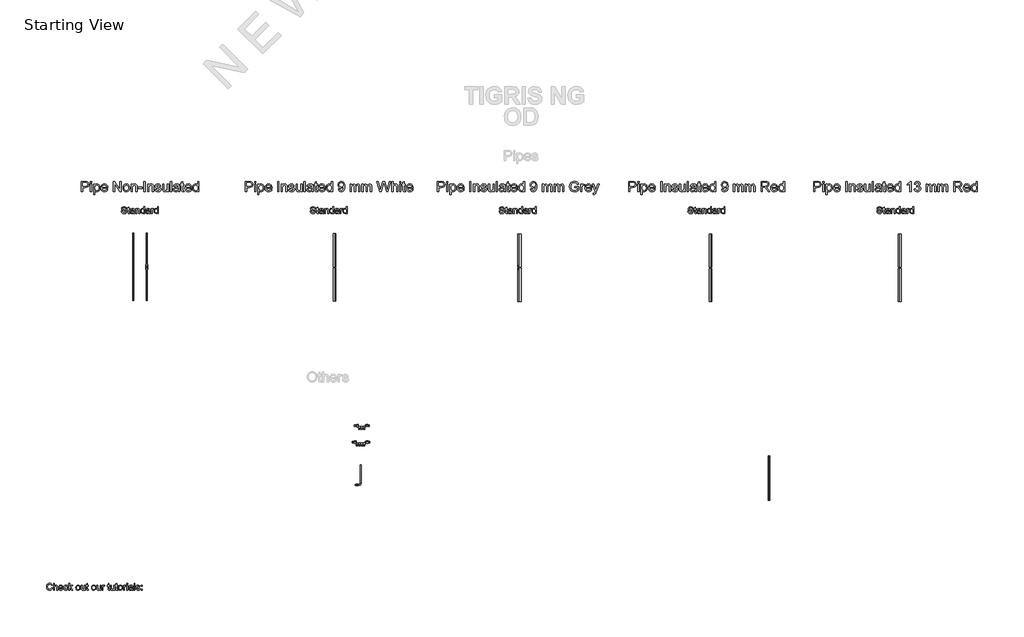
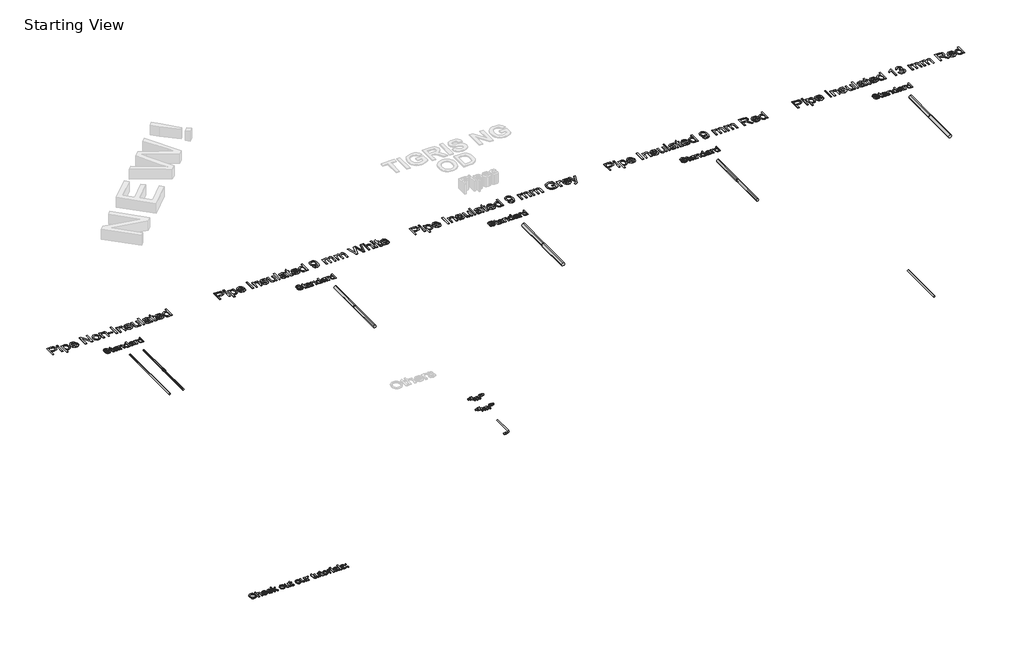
# One storey, part 1 of 2: 18 pipe fittings, 12 pipe segments, 1 proxy.
"""IFC4 building model written with IfcOpenShell, lengths in millimetres."""

from ifc_helpers import new_model, si_unit, point, frame, frame_2d, origin, origin_with_axes, place, context, project, spatial, polyline, circle_curve, trimmed, segment, composite_curve, outline, extrude, transform, mapped, element, save
from components import m5_standard_16_15_4857efd0, standard_570630be, standard_738390c8, standard_260b12c7, standard_a49c3ffd, standard_0df5a764, z_starting_view_new_start_4_b7e0aab5, z_starting_view_new_start_4_ba743cbc, z_starting_view_new_start_4_688b219d, z_starting_view_new_start_4_d8138100

model = new_model("IFC4")

# Units and contexts
model_context = context("Model", 3, world=origin())
ifc_project = project(units=[si_unit("LENGTHUNIT", "METRE", prefix="MILLI")], contexts=[model_context])

# Site, building, storey
site = spatial("IfcSite", under=ifc_project)
building = spatial("IfcBuilding", under=site)
storey = spatial("IfcBuildingStorey", under=building, Name="Starting View", Elevation=0.0)

# Proxy
placement = place(None, origin())
element("IfcBuildingElementProxy", 1, Name="Arial 100", ObjectType="Arial 100", at=placement, inside=storey, context=model_context, shape_type="SweptSolid", body=[
    extrude(outline(polyline([(8037.5758646, 8708.9998472), (8050.1329034, 8705.7624857), (8044.3387619, 8691.1299793), (8035.2459453, 8680.4399417), (8023.3020432, 8673.9008392), (8008.9546454, 8671.7211384), (7994.389584, 8673.370476), (7982.822761, 8678.3184888), (7973.9568049, 8686.3934986), (7967.4943445, 8697.4238271), (7962.233632, 8724.2792128), (7963.7204884, 8738.9270475), (7968.1810576, 8751.5760568), (7975.3823476, 8761.8246361), (7985.0913666, 8769.2711808), (7996.6060731, 8773.8053264), (8009.2244255, 8775.3167082), (8022.9924092, 8773.3608023), (8034.3752912, 8767.4930845), (8043.0174524, 8758.0753054), (8048.5632735, 8745.4692157), (8036.0062348, 8742.4771088), (8025.7055389, 8757.9158899), (8008.7339162, 8762.7596695), (7989.0890176, 8757.3885923), (7977.9912441, 8742.9676181), (7974.7906708, 8724.3037382), (7978.5798553, 8702.6722769), (7990.3766046, 8688.8521766), (8007.7038466, 8684.2781772), (8018.1854178, 8685.8355443), (8026.9195495, 8690.5076456), (8033.5138342, 8698.2454302), (8037.5758646, 8708.9998472)])), origin_with_axes(), (0.0, 0.0, 1.0), 10.0),
    extrude(outline(polyline([(8065.8292018, 8673.2907682), (8065.8292018, 8773.7470784), (8078.3862406, 8773.7470784), (8078.3862406, 8736.8117261), (8088.178033, 8745.6776822), (8100.2384311, 8748.6330009), (8114.3405743, 8745.407902), (8122.899962, 8736.492895), (8125.475136, 8719.9872562), (8125.475136, 8673.2907682), (8112.9180972, 8673.2907682), (8112.9180972, 8718.6874064), (8108.9204462, 8731.9311583), (8097.5896807, 8736.0759621), (8087.3012476, 8733.2800589), (8080.434117, 8725.7016898), (8078.3862406, 8712.4824635), (8078.3862406, 8673.2907682), (8065.8292018, 8673.2907682)])), origin_with_axes(), (0.0, 0.0, 1.0), 10.0),
    extrude(outline(polyline([(8194.3916964, 8695.2655861), (8206.7034805, 8693.6959562), (8202.2674368, 8684.4191986), (8195.1887741, 8677.484623), (8185.6269079, 8673.1620095), (8173.7412537, 8671.7211384), (8159.0075798, 8674.2074075), (8147.670683, 8681.666215), (8140.4418018, 8693.6131828), (8138.0321747, 8709.563933), (8140.4663273, 8726.0511777), (8147.7687849, 8738.3813559), (8158.9523975, 8746.0700896), (8173.0300152, 8748.6330009), (8186.6692402, 8746.076221), (8197.5677443, 8738.4058814), (8204.7138521, 8726.1002287), (8207.095888, 8709.6375094), (8207.0223116, 8706.252995), (8150.5892135, 8706.252995), (8152.762783, 8696.85361), (8157.8119634, 8689.9435599), (8165.0990925, 8685.6945228), (8173.9865084, 8684.2781772), (8186.2982925, 8686.9024021), (8194.3916964, 8695.2655861)]), holes=[polyline([(8150.5892135, 8718.8100338), (8194.5388492, 8718.8100338), (8189.5111286, 8730.1898502), (8182.1902769, 8734.6044341), (8172.9809643, 8736.0759621), (8157.5176578, 8731.3793353), (8152.6524184, 8725.8886965), (8150.5892135, 8718.8100338)])]), origin_with_axes(), (0.0, 0.0, 1.0), 10.0),
    extrude(outline(polyline([(8266.7418221, 8699.9744756), (8279.2988609, 8698.4048458), (8275.7978506, 8687.2365615), (8269.2188942, 8678.7967354), (8260.1812599, 8673.4900377), (8249.3042156, 8671.7211384), (8235.9470334, 8674.1890134), (8225.5022505, 8681.5926386), (8218.7608129, 8693.6070514), (8216.5136671, 8709.9072895), (8220.3519025, 8730.7661986), (8232.05055, 8744.169366), (8249.1325373, 8748.6330009), (8259.7428672, 8747.1001592), (8268.2256128, 8742.5016343), (8274.3109942, 8735.0826807), (8277.729231, 8725.0885532), (8265.1721923, 8723.5189233), (8259.347394, 8732.9244397), (8249.2306392, 8736.0759621), (8241.1157755, 8734.5247263), (8234.6747749, 8729.8710191), (8230.4717231, 8721.8634543), (8229.0707058, 8710.250646), (8230.4410663, 8698.4814879), (8234.5521475, 8690.446332), (8240.8766522, 8685.8202159), (8248.8872826, 8684.2781772), (8260.7208201, 8688.1286754), (8266.7418221, 8699.9744756)])), origin_with_axes(), (0.0, 0.0, 1.0), 10.0),
    extrude(outline(polyline([(8290.2862698, 8673.2907682), (8290.2862698, 8773.7470784), (8302.8433086, 8773.7470784), (8302.8433086, 8719.766527), (8330.998544, 8747.063371), (8348.3625741, 8747.063371), (8319.8639822, 8719.4231704), (8349.932204, 8673.2907682), (8335.2659751, 8673.2907682), (8310.8631361, 8710.6921044), (8302.8433086, 8702.9175316), (8302.8433086, 8673.2907682), (8290.2862698, 8673.2907682)])), origin_with_axes(), (0.0, 0.0, 1.0), 10.0),
    extrude(outline(polyline([(8397.0210994, 8710.1770696), (8399.7372948, 8727.9641641), (8407.8858809, 8740.4660206), (8417.9535849, 8746.5912558), (8430.0078516, 8748.6330009), (8443.1994868, 8746.1467317), (8453.7362403, 8738.6879243), (8460.6432247, 8726.8451897), (8462.9455529, 8711.2071392), (8458.8743255, 8688.8644394), (8447.0162625, 8676.2215615), (8430.0078516, 8671.7211384), (8416.6568008, 8674.1982105), (8406.1323101, 8681.6294268), (8399.298902, 8693.7204817), (8397.0210994, 8710.1770696)]), holes=[polyline([(8409.5781381, 8710.2015951), (8411.031272, 8698.8371071), (8415.3906736, 8690.7406375), (8421.9512359, 8685.8937923), (8430.0078516, 8684.2781772), (8438.0276791, 8685.9029893), (8444.5759786, 8690.7774257), (8448.9353802, 8698.9811942), (8450.3885141, 8710.5940026), (8448.9261832, 8721.6273967), (8444.5391904, 8729.6135017), (8437.9816938, 8734.460347), (8430.0078516, 8736.0759621), (8421.9512359, 8734.4664784), (8415.3906736, 8729.6380272), (8411.031272, 8721.5599517), (8409.5781381, 8710.2015951)])]), origin_with_axes(), (0.0, 0.0, 1.0), 10.0),
    extrude(outline(polyline([(8524.1611169, 8673.2907682), (8524.1611169, 8685.9704343), (8514.3264049, 8675.2834624), (8501.499586, 8671.7211384), (8489.6905739, 8674.222736), (8481.5481191, 8680.5012553), (8477.8079855, 8689.7473562), (8477.0722215, 8701.4214781), (8477.0722215, 8747.063371), (8489.6292603, 8747.063371), (8489.6292603, 8707.3321155), (8490.3895497, 8694.5298221), (8495.3559567, 8687.0127667), (8504.7124221, 8684.2781772), (8515.1970589, 8687.0740803), (8522.1255032, 8694.6892376), (8524.1611169, 8708.6810162), (8524.1611169, 8747.063371), (8536.7181557, 8747.063371), (8536.7181557, 8673.2907682), (8524.1611169, 8673.2907682)])), origin_with_axes(), (0.0, 0.0, 1.0), 10.0),
    extrude(outline(polyline([(8580.6677913, 8683.7631424), (8582.2374212, 8672.9228862), (8572.8441676, 8671.7211384), (8562.3227425, 8673.805803), (8557.0742927, 8679.274982), (8555.5537138, 8693.524278), (8555.5537138, 8734.5063322), (8546.1359347, 8734.5063322), (8546.1359347, 8747.063371), (8555.5537138, 8747.063371), (8555.5537138, 8764.9914869), (8568.1107526, 8772.3736523), (8568.1107526, 8747.063371), (8580.6677913, 8747.063371), (8580.6677913, 8734.5063322), (8568.1107526, 8734.5063322), (8568.1107526, 8693.89216), (8568.7729402, 8687.4174369), (8570.9189185, 8685.1243058), (8575.1986123, 8684.2781772), (8580.6677913, 8683.7631424)])), origin_with_axes(), (0.0, 0.0, 1.0), 10.0),
    extrude(outline(polyline([(8629.3263166, 8710.1770696), (8632.042512, 8727.9641641), (8640.1910982, 8740.4660206), (8650.2588021, 8746.5912558), (8662.3130688, 8748.6330009), (8675.504704, 8746.1467317), (8686.0414575, 8738.6879243), (8692.948442, 8726.8451897), (8695.2507701, 8711.2071392), (8691.1795427, 8688.8644394), (8679.3214797, 8676.2215615), (8662.3130688, 8671.7211384), (8648.9620181, 8674.1982105), (8638.4375273, 8681.6294268), (8631.6041193, 8693.7204817), (8629.3263166, 8710.1770696)]), holes=[polyline([(8641.8833553, 8710.2015951), (8643.3364892, 8698.8371071), (8647.6958909, 8690.7406375), (8654.2564531, 8685.8937923), (8662.3130688, 8684.2781772), (8670.3328963, 8685.9029893), (8676.8811958, 8690.7774257), (8681.2405975, 8698.9811942), (8682.6937313, 8710.5940026), (8681.2314004, 8721.6273967), (8676.8444076, 8729.6135017), (8670.2869111, 8734.460347), (8662.3130688, 8736.0759621), (8654.2564531, 8734.4664784), (8647.6958909, 8729.6380272), (8643.3364892, 8721.5599517), (8641.8833553, 8710.2015951)])]), origin_with_axes(), (0.0, 0.0, 1.0), 10.0),
    extrude(outline(polyline([(8756.4663341, 8673.2907682), (8756.4663341, 8685.9704343), (8746.6316221, 8675.2834624), (8733.8048032, 8671.7211384), (8721.9957912, 8674.222736), (8713.8533363, 8680.5012553), (8710.1132027, 8689.7473562), (8709.3774387, 8701.4214781), (8709.3774387, 8747.063371), (8721.9344775, 8747.063371), (8721.9344775, 8707.3321155), (8722.6947669, 8694.5298221), (8727.6611739, 8687.0127667), (8737.0176393, 8684.2781772), (8747.5022762, 8687.0740803), (8754.4307204, 8694.6892376), (8756.4663341, 8708.6810162), (8756.4663341, 8747.063371), (8769.0233729, 8747.063371), (8769.0233729, 8673.2907682), (8756.4663341, 8673.2907682)])), origin_with_axes(), (0.0, 0.0, 1.0), 10.0),
    extrude(outline(polyline([(8786.2893012, 8673.2907682), (8786.2893012, 8747.063371), (8797.2767101, 8747.063371), (8797.2767101, 8736.1495385), (8805.0758084, 8746.2049797), (8812.9239576, 8748.6330009), (8825.5300473, 8744.7579772), (8821.3361926, 8733.5007881), (8812.5070247, 8736.0759621), (8805.4069022, 8733.59889), (8800.8819537, 8726.7317594), (8798.84634, 8712.0655305), (8798.84634, 8673.2907682), (8786.2893012, 8673.2907682)])), origin_with_axes(), (0.0, 0.0, 1.0), 10.0),
    extrude(outline(polyline([(8899.3026501, 8683.7631424), (8900.8722799, 8672.9228862), (8891.4790263, 8671.7211384), (8880.9576013, 8673.805803), (8875.7091515, 8679.274982), (8874.1885726, 8693.524278), (8874.1885726, 8734.5063322), (8864.7707935, 8734.5063322), (8864.7707935, 8747.063371), (8874.1885726, 8747.063371), (8874.1885726, 8764.9914869), (8886.7456113, 8772.3736523), (8886.7456113, 8747.063371), (8899.3026501, 8747.063371), (8899.3026501, 8734.5063322), (8886.7456113, 8734.5063322), (8886.7456113, 8693.89216), (8887.4077989, 8687.4174369), (8889.5537772, 8685.1243058), (8893.8334711, 8684.2781772), (8899.3026501, 8683.7631424)])), origin_with_axes(), (0.0, 0.0, 1.0), 10.0),
    extrude(outline(polyline([(8958.9485843, 8673.2907682), (8958.9485843, 8685.9704343), (8949.1138722, 8675.2834624), (8936.2870533, 8671.7211384), (8924.4780413, 8674.222736), (8916.3355865, 8680.5012553), (8912.5954529, 8689.7473562), (8911.8596889, 8701.4214781), (8911.8596889, 8747.063371), (8924.4167276, 8747.063371), (8924.4167276, 8707.3321155), (8925.1770171, 8694.5298221), (8930.143424, 8687.0127667), (8939.4998894, 8684.2781772), (8949.9845263, 8687.0740803), (8956.9129705, 8694.6892376), (8958.9485843, 8708.6810162), (8958.9485843, 8747.063371), (8971.505623, 8747.063371), (8971.505623, 8673.2907682), (8958.9485843, 8673.2907682)])), origin_with_axes(), (0.0, 0.0, 1.0), 10.0),
    extrude(outline(polyline([(9015.4552587, 8683.7631424), (9017.0248886, 8672.9228862), (9007.6316349, 8671.7211384), (8997.1102099, 8673.805803), (8991.8617601, 8679.274982), (8990.3411812, 8693.524278), (8990.3411812, 8734.5063322), (8980.9234021, 8734.5063322), (8980.9234021, 8747.063371), (8990.3411812, 8747.063371), (8990.3411812, 8764.9914869), (9002.8982199, 8772.3736523), (9002.8982199, 8747.063371), (9015.4552587, 8747.063371), (9015.4552587, 8734.5063322), (9002.8982199, 8734.5063322), (9002.8982199, 8693.89216), (9003.5604075, 8687.4174369), (9005.7063858, 8685.1243058), (9009.9860797, 8684.2781772), (9015.4552587, 8683.7631424)])), origin_with_axes(), (0.0, 0.0, 1.0), 10.0),
    extrude(outline(polyline([(9024.8730378, 8710.1770696), (9027.5892332, 8727.9641641), (9035.7378194, 8740.4660206), (9045.8055233, 8746.5912558), (9057.85979, 8748.6330009), (9071.0514252, 8746.1467317), (9081.5881787, 8738.6879243), (9088.4951632, 8726.8451897), (9090.7974913, 8711.2071392), (9086.7262639, 8688.8644394), (9074.8682009, 8676.2215615), (9057.85979, 8671.7211384), (9044.5087393, 8674.1982105), (9033.9842485, 8681.6294268), (9027.1508405, 8693.7204817), (9024.8730378, 8710.1770696)]), holes=[polyline([(9037.4300766, 8710.2015951), (9038.8832104, 8698.8371071), (9043.2426121, 8690.7406375), (9049.8031743, 8685.8937923), (9057.85979, 8684.2781772), (9065.8796175, 8685.9029893), (9072.427917, 8690.7774257), (9076.7873187, 8698.9811942), (9078.2404526, 8710.5940026), (9076.7781216, 8721.6273967), (9072.3911288, 8729.6135017), (9065.8336323, 8734.460347), (9057.85979, 8736.0759621), (9049.8031743, 8734.4664784), (9043.2426121, 8729.6380272), (9038.8832104, 8721.5599517), (9037.4300766, 8710.2015951)])]), origin_with_axes(), (0.0, 0.0, 1.0), 10.0),
    extrude(outline(polyline([(9104.9241599, 8673.2907682), (9104.9241599, 8747.063371), (9115.9115689, 8747.063371), (9115.9115689, 8736.1495385), (9123.7106672, 8746.2049797), (9131.5588164, 8748.6330009), (9144.1649061, 8744.7579772), (9139.9710513, 8733.5007881), (9131.1418835, 8736.0759621), (9124.041761, 8733.59889), (9119.5168124, 8726.7317594), (9117.4811987, 8712.0655305), (9117.4811987, 8673.2907682), (9104.9241599, 8673.2907682)])), origin_with_axes(), (0.0, 0.0, 1.0), 10.0),
    extrude(outline(polyline([(9152.0130553, 8761.1900396), (9152.0130553, 8773.7470784), (9164.5700941, 8773.7470784), (9164.5700941, 8761.1900396), (9152.0130553, 8761.1900396)])), origin_with_axes(), (0.0, 0.0, 1.0), 10.0),
    extrude(outline(polyline([(9152.0130553, 8673.2907682), (9152.0130553, 8747.063371), (9164.5700941, 8747.063371), (9164.5700941, 8673.2907682), (9152.0130553, 8673.2907682)])), origin_with_axes(), (0.0, 0.0, 1.0), 10.0),
    extrude(outline(polyline([(9230.4945476, 8682.7085473), (9218.3176536, 8674.1982105), (9204.8654353, 8671.7211384), (9194.3716014, 8673.2110605), (9186.6307511, 8677.6808267), (9181.8574822, 8684.4682495), (9180.2663926, 8692.9111413), (9182.6698883, 8702.8439552), (9188.9851958, 8710.0544423), (9197.7775755, 8714.1747206), (9208.6423571, 8716.0631815), (9230.4209712, 8720.3796636), (9230.4945476, 8723.1755668), (9227.0364569, 8732.4461931), (9213.1550429, 8736.0759621), (9200.4508514, 8733.6602037), (9194.3930612, 8725.0885532), (9181.8360224, 8726.658183), (9187.2684132, 8738.9209162), (9198.2067712, 8746.1068778), (9214.7737237, 8748.6330009), (9229.9917756, 8746.4011834), (9238.5879515, 8740.7971144), (9242.4384497, 8732.2745148), (9243.0515864, 8721.2871059), (9243.0515864, 8705.6643838), (9243.6892485, 8683.8489815), (9246.1908461, 8673.2907682), (9233.6338073, 8673.2907682), (9230.4945476, 8682.7085473)]), holes=[polyline([(9230.4945476, 8707.8226249), (9210.2365124, 8703.9721266), (9199.4330445, 8701.9365129), (9194.540214, 8698.625575), (9192.8234313, 8693.7940581), (9196.5635649, 8687.0005039), (9207.5387111, 8684.2781772), (9220.2429027, 8687.2825468), (9228.4344085, 8694.5543476), (9230.4209712, 8704.2664322), (9230.4945476, 8707.8226249)])]), origin_with_axes(), (0.0, 0.0, 1.0), 10.0),
    extrude(outline(polyline([(9260.3175147, 8673.2907682), (9260.3175147, 8773.7470784), (9272.8745535, 8773.7470784), (9272.8745535, 8673.2907682), (9260.3175147, 8673.2907682)])), origin_with_axes(), (0.0, 0.0, 1.0), 10.0),
    extrude(outline(polyline([(9287.0012221, 8695.2655861), (9299.5582609, 8696.8352159), (9305.3707964, 8687.5155387), (9318.6881246, 8684.2781772), (9331.490418, 8687.2457586), (9335.6597473, 8694.210991), (9331.4658926, 8699.8518483), (9318.5409718, 8703.4325664), (9299.6318373, 8709.5761957), (9291.3790178, 8716.7498946), (9288.5708519, 8726.8789122), (9290.8271948, 8736.2353776), (9296.9830869, 8743.3845511), (9304.9661262, 8747.1001592), (9315.7695941, 8748.6330009), (9331.0489596, 8746.1681915), (9340.7610443, 8739.4972646), (9345.0775264, 8728.2278129), (9332.5204876, 8726.658183), (9327.7993353, 8733.5866273), (9316.7506128, 8736.0759621), (9304.7331343, 8733.6969919), (9301.1278907, 8728.1542365), (9302.6239441, 8724.499942), (9307.3083082, 8721.7285643), (9318.1240389, 8719.0552884), (9336.5549268, 8713.1446511), (9345.1143146, 8706.4491987), (9348.2167861, 8695.5353662), (9344.5747543, 8683.5178877), (9334.065592, 8674.7990844), (9318.5164463, 8671.7211384), (9305.8551743, 8673.2049291), (9296.6152049, 8677.6563013), (9290.4470501, 8685.0262039), (9287.0012221, 8695.2655861)])), origin_with_axes(), (0.0, 0.0, 1.0), 10.0),
    extrude(outline(polyline([(9365.4827144, 8673.2907682), (9365.4827144, 8685.847807), (9378.0397532, 8685.847807), (9378.0397532, 8673.2907682), (9365.4827144, 8673.2907682)])), origin_with_axes(), (0.0, 0.0, 1.0), 10.0),
    extrude(outline(polyline([(9365.4827144, 8734.5063322), (9365.4827144, 8747.063371), (9378.0397532, 8747.063371), (9378.0397532, 8734.5063322), (9365.4827144, 8734.5063322)])), origin_with_axes(), (0.0, 0.0, 1.0), 10.0),
])

# Pipe fittings
m5_standard_16_15_shape = m5_standard_16_15_4857efd0(model_context)
element("IfcPipeFitting", 2, ObjectType="PIF_Tigris_Elbow_Cu_30cm_M5_Wavin : M5 Standard 16-15", at=placement, inside=storey, context=model_context, shape_type="MappedRepresentation", body=[
    mapped(m5_standard_16_15_shape, transform((12620.0361956, 10235.6662995, 0.0), x_axis=(1.0, 0.0, 0.0), y_axis=(0.0, 1.0, 0.0), z_axis=(0.0, 0.0, 1.0))),
])
standard_shape = standard_570630be(model_context)
element("IfcPipeFitting", 3, ObjectType="PIF_Tigris_Coupler_M-K_Wavin : Standard", at=placement, inside=storey, context=model_context, shape_type="MappedRepresentation", body=[
    mapped(standard_shape, transform((9448.1416532, 13468.5811003, 107.5), x_axis=(0.0, 1.0, 0.0), y_axis=(-1.0, 0.0, 0.0), z_axis=(0.0, 0.0, 1.0))),
])
element("IfcPipeFitting", 4, ObjectType="PIF_Tigris_Coupler_M-K_Wavin : Standard", at=placement, inside=storey, context=model_context, shape_type="MappedRepresentation", body=[
    mapped(standard_shape, transform((12234.2366152, 13461.621921, 107.5), x_axis=(0.0, 1.0, 0.0), y_axis=(-1.0, 0.0, 0.0), z_axis=(0.0, 0.0, 1.0))),
])
element("IfcPipeFitting", 5, ObjectType="PIF_Tigris_Coupler_M-K_Wavin : Standard", at=placement, inside=storey, context=model_context, shape_type="MappedRepresentation", body=[
    mapped(standard_shape, transform((17806.796183, 13457.716339, 107.5), x_axis=(0.0, -1.0, 0.0), y_axis=(1.0, 0.0, 0.0), z_axis=(0.0, 0.0, 1.0))),
])
element("IfcPipeFitting", 6, ObjectType="PIF_Tigris_Coupler_M-K_Wavin : Standard", at=placement, inside=storey, context=model_context, shape_type="MappedRepresentation", body=[
    mapped(standard_shape, transform((20611.8713286, 13457.223444, 107.5), x_axis=(0.0, 1.0, 0.0), y_axis=(-1.0, 0.0, 0.0), z_axis=(0.0, 0.0, 1.0))),
])
standard_2_shape = standard_738390c8(model_context)
element("IfcPipeFitting", 7, ObjectType="Z_PIF_Tigris_M1_Manifold_Adaptor_Wavin_(nested) : Standard", at=placement, inside=storey, context=model_context, shape_type="MappedRepresentation", body=[
    mapped(standard_2_shape, transform((12633.1516316, 11081.6671273, 0.0), x_axis=(0.0, -1.0, 0.0), y_axis=(1.0, 0.0, 0.0), z_axis=(0.0, 0.0, 1.0))),
])
element("IfcPipeFitting", 8, ObjectType="Z_PIF_Tigris_M1_Manifold_Adaptor_Wavin_(nested) : Standard", at=placement, inside=storey, context=model_context, shape_type="MappedRepresentation", body=[
    mapped(standard_2_shape, transform((12668.1516316, 11081.6671273, 0.0), x_axis=(0.0, -1.0, 0.0), y_axis=(1.0, 0.0, 0.0), z_axis=(0.0, 0.0, 1.0))),
])
element("IfcPipeFitting", 9, ObjectType="Z_PIF_Tigris_M1_Manifold_Adaptor_Wavin_(nested) : Standard", at=placement, inside=storey, context=model_context, shape_type="MappedRepresentation", body=[
    mapped(standard_2_shape, transform((12566.1516316, 10835.8389547, 0.0), x_axis=(0.0, -1.0, 0.0), y_axis=(1.0, 0.0, 0.0), z_axis=(0.0, 0.0, 1.0))),
])
element("IfcPipeFitting", 10, ObjectType="Z_PIF_Tigris_M1_Manifold_Adaptor_Wavin_(nested) : Standard", at=placement, inside=storey, context=model_context, shape_type="MappedRepresentation", body=[
    mapped(standard_2_shape, transform((12671.1516316, 10835.8389547, 0.0), x_axis=(0.0, -1.0, 0.0), y_axis=(1.0, 0.0, 0.0), z_axis=(0.0, 0.0, 1.0))),
])
element("IfcPipeFitting", 11, ObjectType="Z_PIF_Tigris_M1_Manifold_Adaptor_Wavin_(nested) : Standard", at=placement, inside=storey, context=model_context, shape_type="MappedRepresentation", body=[
    mapped(standard_2_shape, transform((12636.1516316, 10835.8389547, 0.0), x_axis=(0.0, -1.0, 0.0), y_axis=(1.0, 0.0, 0.0), z_axis=(0.0, 0.0, 1.0))),
])
element("IfcPipeFitting", 12, ObjectType="Z_PIF_Tigris_M1_Manifold_Adaptor_Wavin_(nested) : Standard", at=placement, inside=storey, context=model_context, shape_type="MappedRepresentation", body=[
    mapped(standard_2_shape, transform((12598.1516316, 11081.6671273, 0.0), x_axis=(0.0, -1.0, 0.0), y_axis=(1.0, 0.0, 0.0), z_axis=(0.0, 0.0, 1.0))),
])
element("IfcPipeFitting", 13, ObjectType="Z_PIF_Tigris_M1_Manifold_Adaptor_Wavin_(nested) : Standard", at=placement, inside=storey, context=model_context, shape_type="MappedRepresentation", body=[
    mapped(standard_2_shape, transform((12601.1516316, 10835.8389547, 0.0), x_axis=(0.0, -1.0, 0.0), y_axis=(1.0, 0.0, 0.0), z_axis=(0.0, 0.0, 1.0))),
])
standard_3_shape = standard_260b12c7(model_context)
element("IfcPipeFitting", 14, ObjectType="Z_PIF_Tigris_Transition_M-K_FMT_Wavin_(nested) : Standard", at=placement, inside=storey, context=model_context, shape_type="MappedRepresentation", body=[
    mapped(standard_3_shape, transform((12557.6516316, 11115.6671273, 0.0), x_axis=(1.0, 0.0, 0.0), y_axis=(0.0, 1.0, 0.0), z_axis=(0.0, 0.0, 1.0))),
])
element("IfcPipeFitting", 15, ObjectType="Z_PIF_Tigris_Transition_M-K_FMT_Wavin_(nested) : Standard", at=placement, inside=storey, context=model_context, shape_type="MappedRepresentation", body=[
    mapped(standard_3_shape, transform((12525.6516316, 10869.8389547, 0.0), x_axis=(1.0, 0.0, 0.0), y_axis=(0.0, 1.0, 0.0), z_axis=(0.0, 0.0, 1.0))),
])
standard_4_shape = standard_a49c3ffd(model_context)
element("IfcPipeFitting", 16, ObjectType="Z_PIF_Tigris_Transition_M-K_MMT_Wavin_(nested) : Standard", at=placement, inside=storey, context=model_context, shape_type="MappedRepresentation", body=[
    mapped(standard_4_shape, transform((12706.1516316, 11115.6671273, 0.0), x_axis=(1.0, 0.0, 0.0), y_axis=(0.0, 1.0, 0.0), z_axis=(0.0, 0.0, 1.0))),
])
element("IfcPipeFitting", 17, ObjectType="Z_PIF_Tigris_Transition_M-K_MMT_Wavin_(nested) : Standard", at=placement, inside=storey, context=model_context, shape_type="MappedRepresentation", body=[
    mapped(standard_4_shape, transform((12709.1516316, 10869.8389547, 0.0), x_axis=(1.0, 0.0, 0.0), y_axis=(0.0, 1.0, 0.0), z_axis=(0.0, 0.0, 1.0))),
])
standard_5_shape = standard_0df5a764(model_context)
element("IfcPipeFitting", 18, ObjectType="PIF_Tigris_Coupler_M-K_Wavin : Standard", at=placement, inside=storey, context=model_context, shape_type="MappedRepresentation", body=[
    mapped(standard_5_shape, transform((14972.8480375, 13459.2850164, 107.5), x_axis=(0.0, 1.0, 0.0), y_axis=(-1.0, 0.0, 0.0), z_axis=(0.0, 0.0, 1.0))),
])
z_starting_view_new_start_4_shape = z_starting_view_new_start_4_b7e0aab5(model_context)
z_starting_view_new_start_4_2_shape = z_starting_view_new_start_4_ba743cbc(model_context)
z_starting_view_new_start_4_3_shape = z_starting_view_new_start_4_688b219d(model_context)
z_starting_view_new_start_4_4_shape = z_starting_view_new_start_4_d8138100(model_context)
element("IfcPipeFitting", 19, ObjectType="Z_Starting_View_New : Start_4", at=placement, inside=storey, context=model_context, shape_type="MappedRepresentation", body=[
    mapped(z_starting_view_new_start_4_shape, transform((-13286.2839596, 7141.2448294, 0.0), x_axis=(1.0, 0.0, 0.0), y_axis=(0.0, 1.0, 0.0), z_axis=(0.0, 0.0, 1.0))),
    mapped(z_starting_view_new_start_4_2_shape, transform((-13286.2839596, 7141.2448294, 0.0), x_axis=(1.0, 0.0, 0.0), y_axis=(0.0, 1.0, 0.0), z_axis=(0.0, 0.0, 1.0))),
    mapped(z_starting_view_new_start_4_3_shape, transform((-13286.2839596, 7141.2448294, 0.0), x_axis=(1.0, 0.0, 0.0), y_axis=(0.0, 1.0, 0.0), z_axis=(0.0, 0.0, 1.0))),
    mapped(z_starting_view_new_start_4_4_shape, transform((-13286.2839596, 7141.2448294, 0.0), x_axis=(1.0, 0.0, 0.0), y_axis=(0.0, 1.0, 0.0), z_axis=(0.0, 0.0, 1.0))),
])

# Pipe segments
element("IfcPipeSegment", 20, ObjectType="Wavin Tigris Single Pipe (OD) - Standard", at=placement, inside=storey, context=model_context, shape_type="SweptSolid", body=[
    extrude(outline(composite_curve([segment(trimmed(circle_curve(frame_2d((107.5, 9248.1416532)), 10.0), [point((107.5, 9258.1416532))], [point((117.5, 9248.1416532))], False, "CARTESIAN"), True, "CONTINUOUS"), segment(trimmed(circle_curve(frame_2d((107.5, 9248.1416532)), 10.0), [point((117.5, 9248.1416532))], [point((107.5, 9238.1416532))], False, "CARTESIAN"), True, "CONTINUOUS"), segment(trimmed(circle_curve(frame_2d((107.5, 9248.1416532)), 10.0), [point((107.5, 9238.1416532))], [point((97.5, 9248.1416532))], False, "CARTESIAN"), True, "CONTINUOUS"), segment(trimmed(circle_curve(frame_2d((107.5, 9248.1416532)), 10.0), [point((97.5, 9248.1416532))], [point((107.5, 9258.1416532))], False, "CARTESIAN"), True, "CONTINUOUS")], self_intersect=False)), frame((0.0, 12968.5811003, 0.0), z_axis=(0.0, 1.0, 0.0), x_axis=(0.0, 0.0, 1.0)), (0.0, 0.0, 1.0), 1000.0),
])
element("IfcPipeSegment", 21, ObjectType="Wavin Tigris Pipe Insulated 9mm White (OD) - Standard", at=placement, inside=storey, context=model_context, shape_type="SweptSolid", body=[
    extrude(outline(composite_curve([segment(trimmed(circle_curve(frame_2d((107.5, 12234.2366152)), 19.0), [point((107.5, 12253.2366152))], [point((126.5, 12234.2366152))], False, "CARTESIAN"), True, "CONTINUOUS"), segment(trimmed(circle_curve(frame_2d((107.5, 12234.2366152)), 19.0), [point((126.5, 12234.2366152))], [point((107.5, 12215.2366152))], False, "CARTESIAN"), True, "CONTINUOUS"), segment(trimmed(circle_curve(frame_2d((107.5, 12234.2366152)), 19.0), [point((107.5, 12215.2366152))], [point((88.5, 12234.2366152))], False, "CARTESIAN"), True, "CONTINUOUS"), segment(trimmed(circle_curve(frame_2d((107.5, 12234.2366152)), 19.0), [point((88.5, 12234.2366152))], [point((107.5, 12253.2366152))], False, "CARTESIAN"), True, "CONTINUOUS")], self_intersect=False)), frame((0.0, 13470.121921, 0.0), z_axis=(0.0, 1.0, 0.0), x_axis=(0.0, 0.0, 1.0)), (0.0, 0.0, 1.0), 491.5),
])
element("IfcPipeSegment", 22, ObjectType="Wavin Tigris Pipe Insulated 13mm Red (OD) - Standard", at=placement, inside=storey, context=model_context, shape_type="SweptSolid", body=[
    extrude(outline(composite_curve([segment(trimmed(circle_curve(frame_2d((107.5, 20611.8713286)), 23.0), [point((107.5, 20634.8713286))], [point((130.5, 20611.8713286))], False, "CARTESIAN"), True, "CONTINUOUS"), segment(trimmed(circle_curve(frame_2d((107.5, 20611.8713286)), 23.0), [point((130.5, 20611.8713286))], [point((107.5, 20588.8713286))], False, "CARTESIAN"), True, "CONTINUOUS"), segment(trimmed(circle_curve(frame_2d((107.5, 20611.8713286)), 23.0), [point((107.5, 20588.8713286))], [point((84.5, 20611.8713286))], False, "CARTESIAN"), True, "CONTINUOUS"), segment(trimmed(circle_curve(frame_2d((107.5, 20611.8713286)), 23.0), [point((84.5, 20611.8713286))], [point((107.5, 20634.8713286))], False, "CARTESIAN"), True, "CONTINUOUS")], self_intersect=False)), frame((0.0, 13465.723444, 0.0), z_axis=(0.0, 1.0, 0.0), x_axis=(0.0, 0.0, 1.0)), (0.0, 0.0, 1.0), 491.5),
])
element("IfcPipeSegment", 23, ObjectType="Wavin Tigris Pipe in Coil (OD) - Standard", at=placement, inside=storey, context=model_context, shape_type="SweptSolid", body=[
    extrude(outline(composite_curve([segment(trimmed(circle_curve(frame_2d((107.5, 9448.1416532)), 10.0), [point((107.5, 9458.1416532))], [point((117.5, 9448.1416532))], False, "CARTESIAN"), True, "CONTINUOUS"), segment(trimmed(circle_curve(frame_2d((107.5, 9448.1416532)), 10.0), [point((117.5, 9448.1416532))], [point((107.5, 9438.1416532))], False, "CARTESIAN"), True, "CONTINUOUS"), segment(trimmed(circle_curve(frame_2d((107.5, 9448.1416532)), 10.0), [point((107.5, 9438.1416532))], [point((97.5, 9448.1416532))], False, "CARTESIAN"), True, "CONTINUOUS"), segment(trimmed(circle_curve(frame_2d((107.5, 9448.1416532)), 10.0), [point((97.5, 9448.1416532))], [point((107.5, 9458.1416532))], False, "CARTESIAN"), True, "CONTINUOUS")], self_intersect=False)), frame((0.0, 13477.0811003, 0.0), z_axis=(0.0, 1.0, 0.0), x_axis=(0.0, 0.0, 1.0)), (0.0, 0.0, 1.0), 491.5),
])
element("IfcPipeSegment", 24, ObjectType="Wavin Tigris Pipe Insulated 9mm Red (OD) - Standard", at=placement, inside=storey, context=model_context, shape_type="SweptSolid", body=[
    extrude(outline(composite_curve([segment(trimmed(circle_curve(frame_2d((107.5, 17806.796183)), 19.0), [point((107.5, 17787.796183))], [point((88.5, 17806.796183))], False, "CARTESIAN"), True, "CONTINUOUS"), segment(trimmed(circle_curve(frame_2d((107.5, 17806.796183)), 19.0), [point((88.5, 17806.796183))], [point((107.5, 17825.796183))], False, "CARTESIAN"), True, "CONTINUOUS"), segment(trimmed(circle_curve(frame_2d((107.5, 17806.796183)), 19.0), [point((107.5, 17825.796183))], [point((126.5, 17806.796183))], False, "CARTESIAN"), True, "CONTINUOUS"), segment(trimmed(circle_curve(frame_2d((107.5, 17806.796183)), 19.0), [point((126.5, 17806.796183))], [point((107.5, 17787.796183))], False, "CARTESIAN"), True, "CONTINUOUS")], self_intersect=False)), frame((0.0, 12957.716339, 0.0), z_axis=(0.0, 1.0, 0.0), x_axis=(0.0, 0.0, 1.0)), (0.0, 0.0, 1.0), 491.5),
])
element("IfcPipeSegment", 25, ObjectType="Wavin Tigris Pipe Insulated 9mm Grey (OD) - Standard", at=placement, inside=storey, context=model_context, shape_type="SweptSolid", body=[
    extrude(outline(composite_curve([segment(trimmed(circle_curve(frame_2d((107.5, 14972.8480375)), 25.0), [point((107.5, 14997.8480375))], [point((132.5, 14972.8480375))], False, "CARTESIAN"), True, "CONTINUOUS"), segment(trimmed(circle_curve(frame_2d((107.5, 14972.8480375)), 25.0), [point((132.5, 14972.8480375))], [point((107.5, 14947.8480375))], False, "CARTESIAN"), True, "CONTINUOUS"), segment(trimmed(circle_curve(frame_2d((107.5, 14972.8480375)), 25.0), [point((107.5, 14947.8480375))], [point((82.5, 14972.8480375))], False, "CARTESIAN"), True, "CONTINUOUS"), segment(trimmed(circle_curve(frame_2d((107.5, 14972.8480375)), 25.0), [point((82.5, 14972.8480375))], [point((107.5, 14997.8480375))], False, "CARTESIAN"), True, "CONTINUOUS")], self_intersect=False)), frame((0.0, 13468.2850164, 0.0), z_axis=(0.0, 1.0, 0.0), x_axis=(0.0, 0.0, 1.0)), (0.0, 0.0, 1.0), 491.0),
])
element("IfcPipeSegment", 26, ObjectType="Wavin Tigris Pipe in Coil (OD) - Standard", at=placement, inside=storey, context=model_context, shape_type="SweptSolid", body=[
    extrude(outline(composite_curve([segment(trimmed(circle_curve(frame_2d((107.5, 9448.1416532)), 10.0), [point((107.5, 9458.1416532))], [point((117.5, 9448.1416532))], False, "CARTESIAN"), True, "CONTINUOUS"), segment(trimmed(circle_curve(frame_2d((107.5, 9448.1416532)), 10.0), [point((117.5, 9448.1416532))], [point((107.5, 9438.1416532))], False, "CARTESIAN"), True, "CONTINUOUS"), segment(trimmed(circle_curve(frame_2d((107.5, 9448.1416532)), 10.0), [point((107.5, 9438.1416532))], [point((97.5, 9448.1416532))], False, "CARTESIAN"), True, "CONTINUOUS"), segment(trimmed(circle_curve(frame_2d((107.5, 9448.1416532)), 10.0), [point((97.5, 9448.1416532))], [point((107.5, 9458.1416532))], False, "CARTESIAN"), True, "CONTINUOUS")], self_intersect=False)), frame((0.0, 12968.5811003, 0.0), z_axis=(0.0, 1.0, 0.0), x_axis=(0.0, 0.0, 1.0)), (0.0, 0.0, 1.0), 491.5),
])
element("IfcPipeSegment", 27, ObjectType="Wavin Tigris Pipe Insulated 9mm White (OD) - Standard", at=placement, inside=storey, context=model_context, shape_type="SweptSolid", body=[
    extrude(outline(composite_curve([segment(trimmed(circle_curve(frame_2d((107.5, 12234.2366152)), 19.0), [point((107.5, 12253.2366152))], [point((126.5, 12234.2366152))], False, "CARTESIAN"), True, "CONTINUOUS"), segment(trimmed(circle_curve(frame_2d((107.5, 12234.2366152)), 19.0), [point((126.5, 12234.2366152))], [point((107.5, 12215.2366152))], False, "CARTESIAN"), True, "CONTINUOUS"), segment(trimmed(circle_curve(frame_2d((107.5, 12234.2366152)), 19.0), [point((107.5, 12215.2366152))], [point((88.5, 12234.2366152))], False, "CARTESIAN"), True, "CONTINUOUS"), segment(trimmed(circle_curve(frame_2d((107.5, 12234.2366152)), 19.0), [point((88.5, 12234.2366152))], [point((107.5, 12253.2366152))], False, "CARTESIAN"), True, "CONTINUOUS")], self_intersect=False)), frame((0.0, 12961.621921, 0.0), z_axis=(0.0, 1.0, 0.0), x_axis=(0.0, 0.0, 1.0)), (0.0, 0.0, 1.0), 491.5),
])
element("IfcPipeSegment", 28, ObjectType="Wavin Tigris Pipe Insulated 9mm Grey (OD) - Standard", at=placement, inside=storey, context=model_context, shape_type="SweptSolid", body=[
    extrude(outline(composite_curve([segment(trimmed(circle_curve(frame_2d((107.5, 14972.8480375)), 25.0), [point((107.5, 14997.8480375))], [point((132.5, 14972.8480375))], False, "CARTESIAN"), True, "CONTINUOUS"), segment(trimmed(circle_curve(frame_2d((107.5, 14972.8480375)), 25.0), [point((132.5, 14972.8480375))], [point((107.5, 14947.8480375))], False, "CARTESIAN"), True, "CONTINUOUS"), segment(trimmed(circle_curve(frame_2d((107.5, 14972.8480375)), 25.0), [point((107.5, 14947.8480375))], [point((82.5, 14972.8480375))], False, "CARTESIAN"), True, "CONTINUOUS"), segment(trimmed(circle_curve(frame_2d((107.5, 14972.8480375)), 25.0), [point((82.5, 14972.8480375))], [point((107.5, 14997.8480375))], False, "CARTESIAN"), True, "CONTINUOUS")], self_intersect=False)), frame((0.0, 12959.2850164, 0.0), z_axis=(0.0, 1.0, 0.0), x_axis=(0.0, 0.0, 1.0)), (0.0, 0.0, 1.0), 491.0),
])
element("IfcPipeSegment", 29, ObjectType="Wavin Tigris Pipe Insulated 9mm Red (OD) - Standard", at=placement, inside=storey, context=model_context, shape_type="SweptSolid", body=[
    extrude(outline(composite_curve([segment(trimmed(circle_curve(frame_2d((107.5, 17806.796183)), 19.0), [point((107.5, 17787.796183))], [point((88.5, 17806.796183))], False, "CARTESIAN"), True, "CONTINUOUS"), segment(trimmed(circle_curve(frame_2d((107.5, 17806.796183)), 19.0), [point((88.5, 17806.796183))], [point((107.5, 17825.796183))], False, "CARTESIAN"), True, "CONTINUOUS"), segment(trimmed(circle_curve(frame_2d((107.5, 17806.796183)), 19.0), [point((107.5, 17825.796183))], [point((126.5, 17806.796183))], False, "CARTESIAN"), True, "CONTINUOUS"), segment(trimmed(circle_curve(frame_2d((107.5, 17806.796183)), 19.0), [point((126.5, 17806.796183))], [point((107.5, 17787.796183))], False, "CARTESIAN"), True, "CONTINUOUS")], self_intersect=False)), frame((0.0, 13466.216339, 0.0), z_axis=(0.0, 1.0, 0.0), x_axis=(0.0, 0.0, 1.0)), (0.0, 0.0, 1.0), 491.5),
])
element("IfcPipeSegment", 30, ObjectType="Wavin Tigris Pipe Insulated 13mm Red (OD) - Standard", at=placement, inside=storey, context=model_context, shape_type="SweptSolid", body=[
    extrude(outline(composite_curve([segment(trimmed(circle_curve(frame_2d((107.5, 20611.8713286)), 23.0), [point((107.5, 20634.8713286))], [point((130.5, 20611.8713286))], False, "CARTESIAN"), True, "CONTINUOUS"), segment(trimmed(circle_curve(frame_2d((107.5, 20611.8713286)), 23.0), [point((130.5, 20611.8713286))], [point((107.5, 20588.8713286))], False, "CARTESIAN"), True, "CONTINUOUS"), segment(trimmed(circle_curve(frame_2d((107.5, 20611.8713286)), 23.0), [point((107.5, 20588.8713286))], [point((84.5, 20611.8713286))], False, "CARTESIAN"), True, "CONTINUOUS"), segment(trimmed(circle_curve(frame_2d((107.5, 20611.8713286)), 23.0), [point((84.5, 20611.8713286))], [point((107.5, 20634.8713286))], False, "CARTESIAN"), True, "CONTINUOUS")], self_intersect=False)), frame((0.0, 12957.223444, 0.0), z_axis=(0.0, 1.0, 0.0), x_axis=(0.0, 0.0, 1.0)), (0.0, 0.0, 1.0), 491.5),
])
element("IfcPipeSegment", 31, ObjectType="Universal Transition Pipe", at=placement, inside=storey, context=model_context, shape_type="SweptSolid", body=[
    extrude(outline(composite_curve([segment(trimmed(circle_curve(frame_2d((107.5, 18676.4783877)), 10.65), [point((107.5, 18687.1283877))], [point((118.15, 18676.4783877))], False, "CARTESIAN"), True, "CONTINUOUS"), segment(trimmed(circle_curve(frame_2d((107.5, 18676.4783877)), 10.65), [point((118.15, 18676.4783877))], [point((107.5, 18665.8283877))], False, "CARTESIAN"), True, "CONTINUOUS"), segment(trimmed(circle_curve(frame_2d((107.5, 18676.4783877)), 10.65), [point((107.5, 18665.8283877))], [point((96.85, 18676.4783877))], False, "CARTESIAN"), True, "CONTINUOUS"), segment(trimmed(circle_curve(frame_2d((107.5, 18676.4783877)), 10.65), [point((96.85, 18676.4783877))], [point((107.5, 18687.1283877))], False, "CARTESIAN"), True, "CONTINUOUS")], self_intersect=False)), frame((0.0, 10005.1649762, 0.0), z_axis=(0.0, 1.0, 0.0), x_axis=(0.0, 0.0, 1.0)), (0.0, 0.0, 1.0), 660.0),
])

save(model, "model.ifc")
